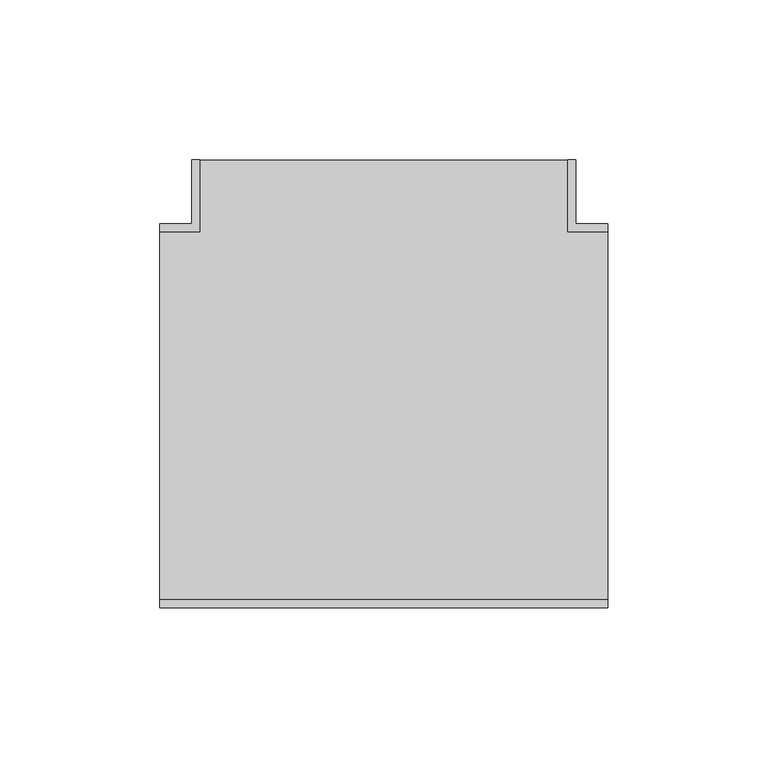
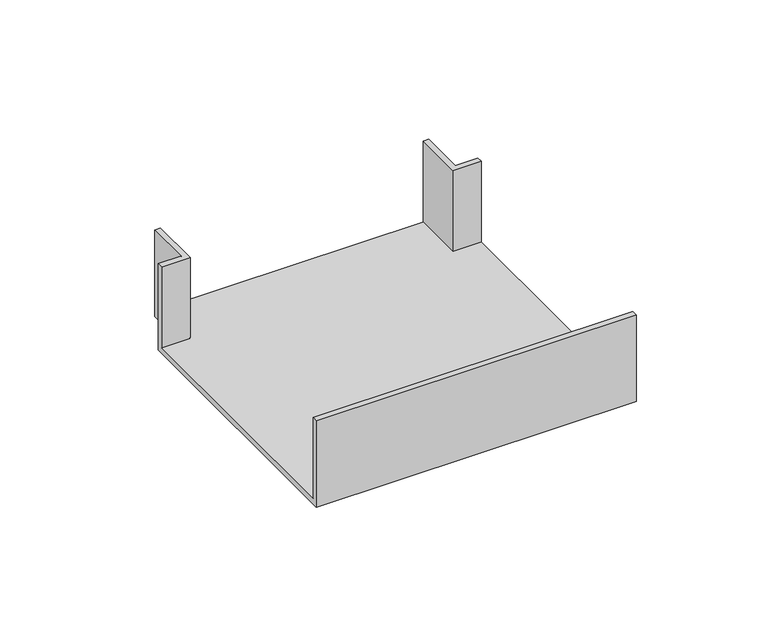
"""IFC4 building model written with IfcOpenShell, lengths in millimetres: cable carrier fitting geometry, КНС_ТройникNTAN_ILC_DKC : Тройник/отвод."""

from ifc_helpers import new_model, si_unit, origin, place, context, project, spatial, faceted_brep, source, transform, mapped, element, save


def cable_carrier_fitting_7f96d2d7(model_context):
    return source(origin(), model_context, "Body", "Brep", [
        faceted_brep([(70.0, -57.5, -17.5), (70.0, 57.5, -17.5), (57.5, 57.5, -17.5), (57.5, 80.0, -17.5), (-57.5, 80.0, -17.5), (-57.5, 57.5, -17.5), (-70.0, 57.5, -17.5), (-70.0, -57.5, -17.5), (70.0, -60.0, -20.0), (-70.0, -60.0, -20.0), (-70.0, 60.0, -20.0), (-60.0, 60.0, -20.0), (-60.0, 80.0, -20.0), (60.0, 80.0, -20.0), (60.0, 60.0, -20.0), (70.0, 60.0, -20.0), (70.0, 60.0, 20.0), (70.0, 57.5, 20.0), (70.0, -57.5, 20.0), (70.0, -60.0, 20.0), (60.0, 60.0, 20.0), (60.0, 80.0, 20.0), (-60.0, 80.0, 20.0), (-57.5, 80.0, 20.0), (57.5, 80.0, 20.0), (-60.0, 60.0, 20.0), (-70.0, 60.0, 20.0), (-70.0, -60.0, 20.0), (-70.0, -57.5, 20.0), (-70.0, 57.5, 20.0), (57.5, 57.5, 20.0), (-57.5, 57.5, 20.0)], [[[0, 1, 2, 3, 4, 5, 6, 7]], [[8, 9, 10, 11, 12, 13, 14, 15]], [[8, 15, 16, 17, 1, 0, 18, 19]], [[16, 15, 14, 20]], [[20, 14, 13, 21]], [[21, 13, 12, 22, 23, 4, 3, 24]], [[22, 12, 11, 25]], [[25, 11, 10, 26]], [[26, 10, 9, 27, 28, 7, 6, 29]], [[27, 9, 8, 19]], [[20, 21, 24, 30, 17, 16]], [[25, 26, 29, 31, 23, 22]], [[27, 19, 18, 28]], [[31, 29, 6, 5]], [[23, 31, 5, 4]], [[30, 24, 3, 2]], [[17, 30, 2, 1]], [[28, 18, 0, 7]]]),
    ])


if __name__ == "__main__":
    model = new_model("IFC4")
    model_context = context("Model", 3, world=origin())
    ifc_project = project(units=[si_unit("LENGTHUNIT", "METRE", prefix="MILLI")], contexts=[model_context])
    site = spatial("IfcSite", under=ifc_project)
    building = spatial("IfcBuilding", under=site)
    placement = place(None, origin())
    cable_carrier_fitting_shape = cable_carrier_fitting_7f96d2d7(model_context)
    element("IfcCableCarrierFitting", 1, ObjectType="КНС_ТройникNTAN_ILC_DKC : Тройник/отвод", at=placement, inside=building, context=model_context, shape_type="MappedRepresentation", body=[
        mapped(cable_carrier_fitting_shape, transform((0.0, 0.0, 0.0), x_axis=(1.0, 0.0, 0.0), y_axis=(0.0, 1.0, 0.0), z_axis=(0.0, 0.0, 1.0))),
    ])
    save(model, "model.ifc")
